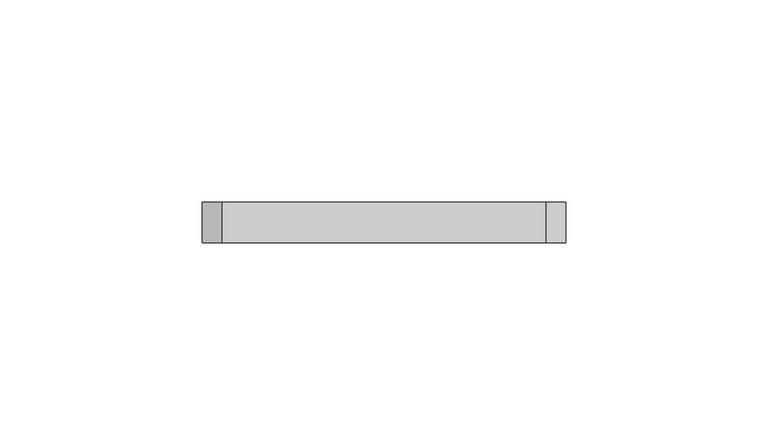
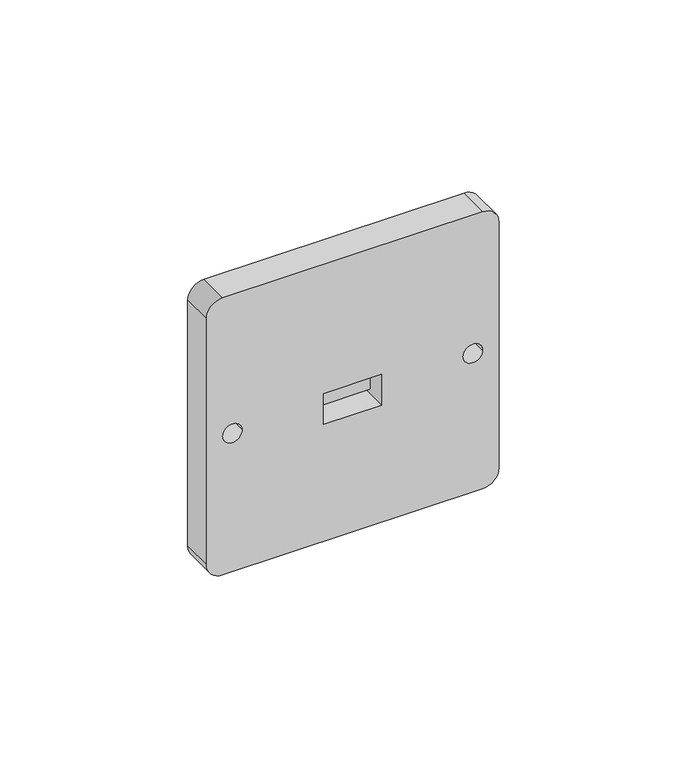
"""IFC4 building model written with IfcOpenShell, lengths in millimetres: proxy geometry, BIMHealth-Electrical_Data_Point-Non_Wall_Hosted-LOD2A-v1 : BIMHealth-Electrical_Data_Point-Non_Wall_Hosted-LOD2A-v1."""

import ifcopenshell
import ifcopenshell.guid

model = None  # the IFC model being written
_history = None  # IfcOwnerHistory: only IFC2X3 demands one
_inside = {}  # id of a spatial element -> (the spatial element, [elements in it])
_under = {}  # id of a project, library or spatial element -> (it, [spatial elements below it])
_declared = {}  # id of a project -> (the project, [libraries it declares])
_typed = {}  # id of a type object -> (the type object, [elements of that type])
_made_of = {}  # id of a material, layer set ... -> (it, [elements and type objects made of it])


def new_model(schema):
    """Start an empty IFC model of exactly this schema.

    Asked for "IFC4X3", IfcOpenShell would pick the latest addendum, in which some entities
    have other attributes; the version numbers below select the first issue.
    IFC2X3 requires an IfcOwnerHistory on every rooted entity: one is made here for all.
    """
    global model, _history
    if schema == "IFC4X3":
        model = ifcopenshell.file(schema_version=(4, 3, 0, 0))
    else:
        model = ifcopenshell.file(schema=schema)
    _inside.clear()
    _under.clear()
    _declared.clear()
    _typed.clear()
    _made_of.clear()
    _history = None
    if model.schema == "IFC2X3":
        org = make("IfcOrganization", Name="unknown")
        user = make(
            "IfcPersonAndOrganization",
            ThePerson=make("IfcPerson", FamilyName="unknown"),
            TheOrganization=org,
        )
        app = make(
            "IfcApplication",
            ApplicationDeveloper=org,
            Version="unknown",
            ApplicationFullName="unknown",
            ApplicationIdentifier="unknown",
        )
        _history = make(
            "IfcOwnerHistory",
            OwningUser=user,
            OwningApplication=app,
            ChangeAction="ADDED",
            CreationDate=0,
        )
    return model


def make(cls, **values):
    """One entity of the class cls with the attributes given. An attribute that is None is left unset."""
    return model.create_entity(
        cls, **{name: value for name, value in values.items() if value is not None}
    )


def rooted(cls, **values):
    """An entity with a GlobalId (a new one), such as an element, a storey or a relation."""
    return make(cls, GlobalId=ifcopenshell.guid.new(), OwnerHistory=_history, **values)


def si_unit(unit_type, name, prefix=None):
    """IfcSIUnit, for example si_unit("LENGTHUNIT", "METRE", prefix="MILLI")."""
    return make("IfcSIUnit", UnitType=unit_type, Prefix=prefix, Name=name)


def assignment(units):
    """IfcUnitAssignment: the units of a project."""
    return None if units is None else make("IfcUnitAssignment", Units=units)


def point(xyz):
    """IfcCartesianPoint."""
    return None if xyz is None else make("IfcCartesianPoint", Coordinates=xyz)


def direction(xyz):
    """IfcDirection."""
    return None if xyz is None else make("IfcDirection", DirectionRatios=xyz)


def frame(location, z_axis=None, x_axis=None):
    """IfcAxis2Placement3D, a coordinate frame: its origin and axes. An axis left out is left unset."""
    return make(
        "IfcAxis2Placement3D",
        Location=point(location),
        Axis=direction(z_axis),
        RefDirection=direction(x_axis),
    )


def frame_2d(location, x_axis=None):
    """IfcAxis2Placement2D, a coordinate frame in the plane: its origin and x axis."""
    return make(
        "IfcAxis2Placement2D", Location=point(location), RefDirection=direction(x_axis)
    )


def origin():
    """The frame at (0, 0, 0) with its axes left unset."""
    return frame((0.0, 0.0, 0.0))


def place(relative_to, where):
    """IfcLocalPlacement: puts the frame where relative to a parent placement (None: the world)."""
    return make(
        "IfcLocalPlacement", PlacementRelTo=relative_to, RelativePlacement=where
    )


def context(
    kind, dimensions, precision=None, world=None, true_north=None, identifier=None
):
    """IfcGeometricRepresentationContext, for example the 3D "Model" context."""
    return make(
        "IfcGeometricRepresentationContext",
        ContextIdentifier=identifier,
        ContextType=kind,
        CoordinateSpaceDimension=dimensions,
        Precision=precision,
        WorldCoordinateSystem=world,
        TrueNorth=true_north,
    )


def project(units=None, contexts=None):
    """IfcProject with its units and contexts."""
    return rooted(
        "IfcProject",
        Name="project",
        RepresentationContexts=contexts,
        UnitsInContext=assignment(units),
    )


def spatial(cls, under=None, at=None, **own):
    """A site, building, storey or space (cls), placed at a placement, below another one or the project."""
    s = rooted(cls, ObjectPlacement=at, **own)
    if under is not None:
        _under.setdefault(under.id(), (under, []))[1].append(s)
    return s


def polyline(points):
    """IfcPolyline through the points."""
    return make("IfcPolyline", Points=[point(p) for p in points])


def circle_curve(where, radius):
    """IfcCircle in the frame where."""
    return make("IfcCircle", Position=where, Radius=radius)


def trimmed(basis, trim1, trim2, sense, master):
    """IfcTrimmedCurve: the piece of a basis curve between two trims."""
    return make(
        "IfcTrimmedCurve",
        BasisCurve=basis,
        Trim1=trim1,
        Trim2=trim2,
        SenseAgreement=sense,
        MasterRepresentation=master,
    )


def segment(curve, same_sense, transition):
    """IfcCompositeCurveSegment."""
    return make(
        "IfcCompositeCurveSegment",
        Transition=transition,
        SameSense=same_sense,
        ParentCurve=curve,
    )


def composite_curve(segments, self_intersect=None):
    """IfcCompositeCurve: segments joined end to end."""
    return make("IfcCompositeCurve", Segments=segments, SelfIntersect=self_intersect)


def outline(outer, holes=None, kind="AREA"):
    """IfcArbitraryClosedProfileDef: a profile drawn as a closed curve; with holes, ...WithVoids."""
    if holes is None:
        return make("IfcArbitraryClosedProfileDef", ProfileType=kind, OuterCurve=outer)
    return make(
        "IfcArbitraryProfileDefWithVoids",
        ProfileType=kind,
        OuterCurve=outer,
        InnerCurves=holes,
    )


def extrude(swept, where, along, depth):
    """IfcExtrudedAreaSolid: the profile swept, set in the frame where, extruded along a direction by depth."""
    return make(
        "IfcExtrudedAreaSolid",
        SweptArea=swept,
        Position=where,
        ExtrudedDirection=direction(along),
        Depth=depth,
    )


def shape(context_of_items, identifier, shape_type, items):
    """IfcShapeRepresentation: the items that make up one representation, for example the "Body"."""
    return make(
        "IfcShapeRepresentation",
        ContextOfItems=context_of_items,
        RepresentationIdentifier=identifier,
        RepresentationType=shape_type,
        Items=items,
    )


def source(mapping_origin, context_of_items, identifier, shape_type, items):
    """IfcRepresentationMap: a shape defined once, which mapped items show again and again."""
    return make(
        "IfcRepresentationMap",
        MappingOrigin=mapping_origin,
        MappedRepresentation=shape(context_of_items, identifier, shape_type, items),
    )


def transform(
    local_origin,
    x_axis=None,
    y_axis=None,
    z_axis=None,
    scale=None,
    scale2=None,
    scale3=None,
    uniform=True,
):
    """IfcCartesianTransformationOperator3D, or its non-uniform kind. x_axis, y_axis, z_axis: its Axis1, 2, 3."""
    if uniform:
        return make(
            "IfcCartesianTransformationOperator3D",
            Axis1=direction(x_axis),
            Axis2=direction(y_axis),
            LocalOrigin=point(local_origin),
            Scale=scale,
            Axis3=direction(z_axis),
        )
    return make(
        "IfcCartesianTransformationOperator3DnonUniform",
        Axis1=direction(x_axis),
        Axis2=direction(y_axis),
        LocalOrigin=point(local_origin),
        Scale=scale,
        Axis3=direction(z_axis),
        Scale2=scale2,
        Scale3=scale3,
    )


def mapped(mapping_source, mapping_target):
    """IfcMappedItem: shows the shape of a source again, moved by a transform."""
    return make(
        "IfcMappedItem", MappingSource=mapping_source, MappingTarget=mapping_target
    )


def made_of(thing, what):
    """Note that an element or type object is made of a material, layer set ...; save() writes the relation."""
    if what is not None:
        _made_of.setdefault(what.id(), (what, []))[1].append(thing)
    return thing


def element(
    cls,
    number,
    at=None,
    inside=None,
    cuts=None,
    type_object=None,
    material=None,
    context=None,
    identifier="Body",
    shape_type=None,
    held_by="IfcProductDefinitionShape",
    body=None,
    shapes=None,
    **own,
):
    """One element of the class cls, such as IfcWall. Its Tag is "e" and its number.

    at: its placement. inside: the storey or other place that contains it. cuts: it is an
    opening in that element (IfcRelVoidsElement). A single representation is given by context,
    identifier, shape_type and body (its items); several are given by shapes. held_by: the class
    of the entity that holds the representations. save() writes the other relations.
    """
    e = rooted(cls, Tag="e%d" % number, ObjectPlacement=at, **own)
    if body is not None:
        shapes = [shape(context, identifier, shape_type, body)]
    if shapes is not None:
        e.Representation = make(held_by, Representations=shapes)
    if inside is not None:
        _inside.setdefault(inside.id(), (inside, []))[1].append(e)
    if cuts is not None:
        rooted(
            "IfcRelVoidsElement", RelatingBuildingElement=cuts, RelatedOpeningElement=e
        )
    if type_object is not None:
        _typed.setdefault(type_object.id(), (type_object, []))[1].append(e)
    return made_of(e, material)


def aggregate(whole, parts):
    """IfcRelAggregates: a whole, such as a stair, and the parts it consists of."""
    return rooted("IfcRelAggregates", RelatingObject=whole, RelatedObjects=parts)


def save(model, path):
    """Write the relations noted so far, then the file.

    IfcRelAggregates (storeys below a building ...), IfcRelContainedInSpatialStructure (elements
    in a storey), IfcRelDefinesByType, IfcRelAssociatesMaterial and IfcRelDeclares: one each for
    every whole, place, type object, material and project.
    """
    for whole, parts in _under.values():
        aggregate(whole, parts)
    for where, things in _inside.values():
        rooted(
            "IfcRelContainedInSpatialStructure",
            RelatedElements=things,
            RelatingStructure=where,
        )
    for kind, things in _typed.values():
        rooted("IfcRelDefinesByType", RelatedObjects=things, RelatingType=kind)
    for what, things in _made_of.values():
        rooted("IfcRelAssociatesMaterial", RelatedObjects=things, RelatingMaterial=what)
    for by, libraries in _declared.values():
        rooted("IfcRelDeclares", RelatingContext=by, RelatedDefinitions=libraries)
    model.write(path)


def electrical_fixtures_c5f72a11(model_context):
    return source(origin(), model_context, "Body", "SweptSolid", [
        extrude(outline(composite_curve([segment(trimmed(circle_curve(frame_2d((835.0, -40.0)), 5.0), [point((840.0, -40.0))], [point((835.0, -45.0))], False, "CARTESIAN"), True, "CONTINUOUS"), segment(polyline([(835.0, -45.0), (755.0, -45.0)]), True, "CONTINUOUS"), segment(trimmed(circle_curve(frame_2d((755.0, -40.0)), 5.0), [point((755.0, -45.0))], [point((750.0, -40.0))], False, "CARTESIAN"), True, "CONTINUOUS"), segment(polyline([(750.0, -40.0), (750.0, 40.0)]), True, "CONTINUOUS"), segment(trimmed(circle_curve(frame_2d((755.0, 40.0)), 5.0), [point((750.0, 40.0))], [point((755.0, 45.0))], False, "CARTESIAN"), True, "CONTINUOUS"), segment(polyline([(755.0, 45.0), (835.0, 45.0)]), True, "CONTINUOUS"), segment(trimmed(circle_curve(frame_2d((835.0, 40.0)), 5.0), [point((835.0, 45.0))], [point((840.0, 40.0))], False, "CARTESIAN"), True, "CONTINUOUS"), segment(polyline([(840.0, 40.0), (840.0, -40.0)]), True, "CONTINUOUS")], self_intersect=False), holes=[composite_curve([segment(trimmed(circle_curve(frame_2d((795.0, 37.0)), 3.0), [point((795.0, 40.0))], [point((795.0, 34.0))], True, "CARTESIAN"), True, "CONTINUOUS"), segment(trimmed(circle_curve(frame_2d((795.0, 37.0)), 3.0), [point((795.0, 34.0))], [point((795.0, 40.0))], True, "CARTESIAN"), True, "CONTINUOUS")], self_intersect=False), composite_curve([segment(trimmed(circle_curve(frame_2d((795.0, -37.0)), 3.0), [point((795.0, -40.0))], [point((795.0, -34.0))], True, "CARTESIAN"), True, "CONTINUOUS"), segment(trimmed(circle_curve(frame_2d((795.0, -37.0)), 3.0), [point((795.0, -34.0))], [point((795.0, -40.0))], True, "CARTESIAN"), True, "CONTINUOUS")], self_intersect=False), polyline([(798.0, -8.9142184), (798.0, 8.9142184), (788.0, 8.9142184), (788.0, -8.9142184), (798.0, -8.9142184)])]), frame((0.0, 0.0, 0.0), z_axis=(0.0, 1.0, 0.0), x_axis=(0.0, 0.0, 1.0)), (0.0, 0.0, 1.0), 10.0),
        extrude(outline(polyline([(5.7604586, 789.7966565), (5.7604586, 798.0), (6.7153408, 798.0), (6.7153408, 790.7966565), (8.7153408, 790.7966565), (8.7153408, 789.7966565), (5.7604586, 789.7966565)])), frame((-8.9142184, 0.0, 0.0), z_axis=(1.0, 0.0, 0.0), x_axis=(0.0, 1.0, 0.0)), (0.0, 0.0, 1.0), 17.8284368),
    ])


if __name__ == "__main__":
    model = new_model("IFC4")
    model_context = context("Model", 3, world=origin())
    ifc_project = project(units=[si_unit("LENGTHUNIT", "METRE", prefix="MILLI")], contexts=[model_context])
    site = spatial("IfcSite", under=ifc_project)
    building = spatial("IfcBuilding", under=site)
    placement = place(None, origin())
    electrical_fixtures_shape = electrical_fixtures_c5f72a11(model_context)
    element("IfcBuildingElementProxy", 1, Name="BIMHealth-Electrical_Data_Point-Non_Wall_Hosted-LOD2A-v1 : BIMHealth-Electrical_Data_Point-Non_Wall_Hosted-LOD2A-v1", ObjectType="BIMHealth-Electrical_Data_Point-Non_Wall_Hosted-LOD2A-v1 : BIMHealth-Electrical_Data_Point-Non_Wall_Hosted-LOD2A-v1", at=placement, inside=building, context=model_context, shape_type="MappedRepresentation", body=[
        mapped(electrical_fixtures_shape, transform((0.0, 0.0, 0.0), x_axis=(1.0, 0.0, 0.0), y_axis=(0.0, 1.0, 0.0), z_axis=(0.0, 0.0, 1.0))),
    ])
    save(model, "model.ifc")
